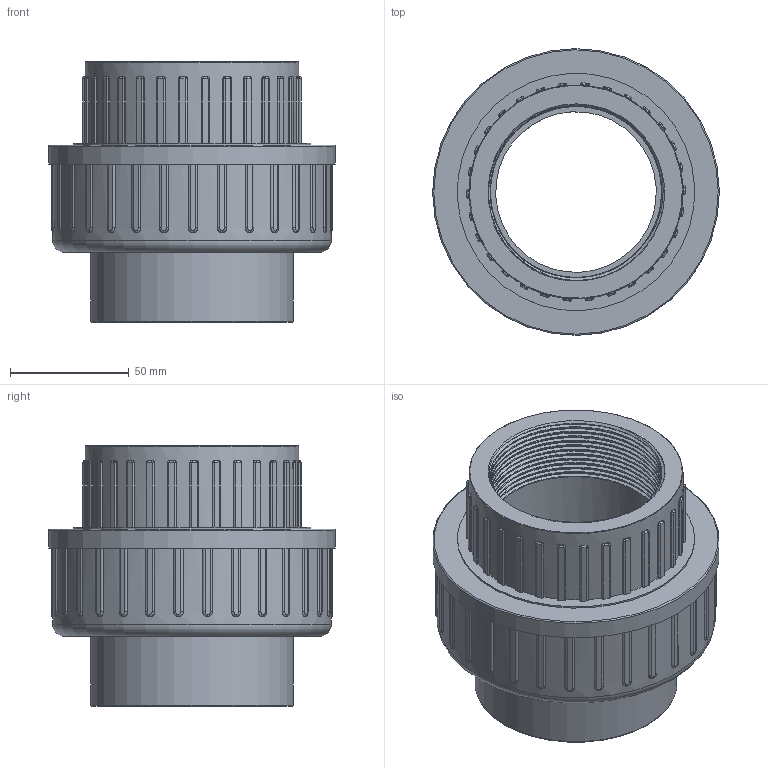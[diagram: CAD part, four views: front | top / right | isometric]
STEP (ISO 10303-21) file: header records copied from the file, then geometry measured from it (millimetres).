
FILE_DESCRIPTION(/* description */ (''),/* implementation_level */ '2;1');
FILE_NAME(/* name */ 'C:\Users\POLYPIPE\Desktop\DATASET INVENTOR\LIBRERIA EFFAST\3D_RACCORDI\RGR\3D_RGRBOG\3D_RGRBOG075H.stp',/* time_stamp */ '2018-01-22T14:34:49+01:00',/* author */ ('POLYPIPE'),/* organization */ (''),/* preprocessor_version */ 'ST-DEVELOPER v16.1',/* originating_system */ 'Autodesk Inventor 2016',/* authorisation */ '');
FILE_SCHEMA (('CONFIG_CONTROL_DESIGN'));
Length unit declared in the file: centimetre
Products named in the file (1): 3D_RGRBOG
Bounding box: 121 x 121 x 110 mm (x, y, z)
Volume: 421069.7 mm3; surface area: 92091.9 mm2
Topology: 1 solids, 2 shells, 515 faces, 1385 edges, 882 vertices
Faces by surface type: cylinder 222, plane 163, bspline 125, torus 4, cone 1
Full cylindrical faces by diameter (mm): 67.8 x1, 69 x1, 72.226 x1, 75 x1, 85.3 x1, 90.2 x1, 92 x1, 97 x1, 98 x1, 100.2 x1, 117.5 x1, 121 x1
Entity records: 23920 total; most frequent: CARTESIAN_POINT 10888, ORIENTED_EDGE 2730, DIRECTION 2523, EDGE_CURVE 1365, AXIS2_PLACEMENT_3D 960, VERTEX_POINT 878, LINE 603, VECTOR 603
